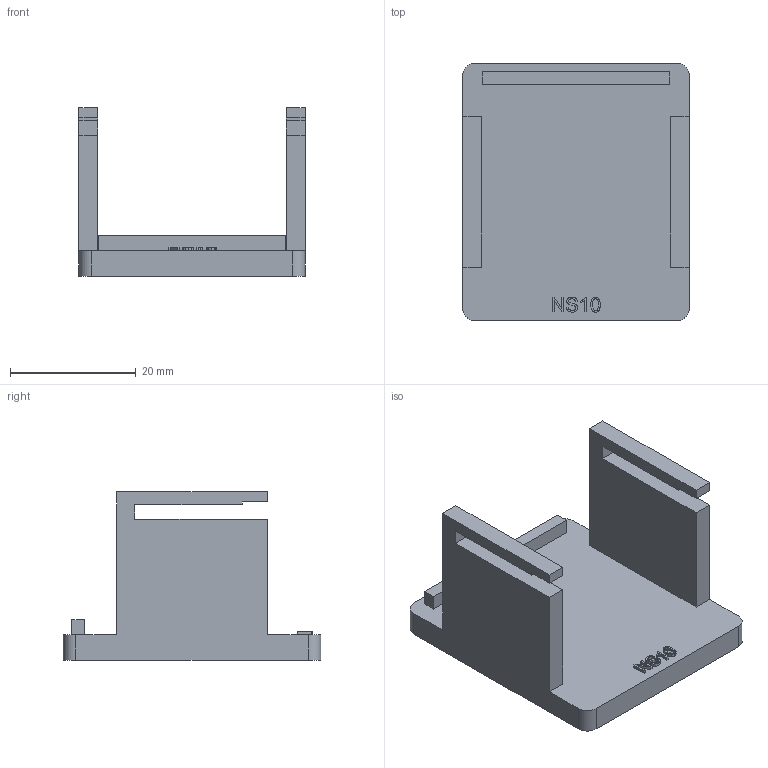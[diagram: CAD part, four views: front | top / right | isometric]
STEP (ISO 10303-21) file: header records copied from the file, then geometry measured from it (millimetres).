
FILE_DESCRIPTION(('Open CASCADE Model'),'2;1');
FILE_NAME('Open CASCADE Shape Model','1970-01-01T00:00:00',('Author'),( 'Open CASCADE'),'Open CASCADE STEP processor 7.8','Open CASCADE 7.8' ,'Unknown');
FILE_SCHEMA(('AUTOMOTIVE_DESIGN { 1 0 10303 214 1 1 1 1 }'));
Length unit declared in the file: millimetre
Products named in the file (2): Open CASCADE STEP translator 7.8 34; NS10D neck storage shoe
Assembly tree (1 placements, depth 2):
  Open CASCADE STEP translator 7.8 34
    NS10D neck storage shoe
Bounding box: 36 x 41 x 26.73 mm (x, y, z)
Volume: 8998.4 mm3; surface area: 6221.8 mm2
Topology: 1 solids, 1 shells, 114 faces, 318 edges, 212 vertices
Faces by surface type: extrusion 57, plane 53, cylinder 4
Entity records: 8646 total; most frequent: CARTESIAN_POINT 2935, DIRECTION 754, ORIENTED_EDGE 636, PCURVE 636, DEFINITIONAL_REPRESENTATION 636, VECTOR 614, LINE 557, B_SPLINE_CURVE_WITH_KNOTS 438
